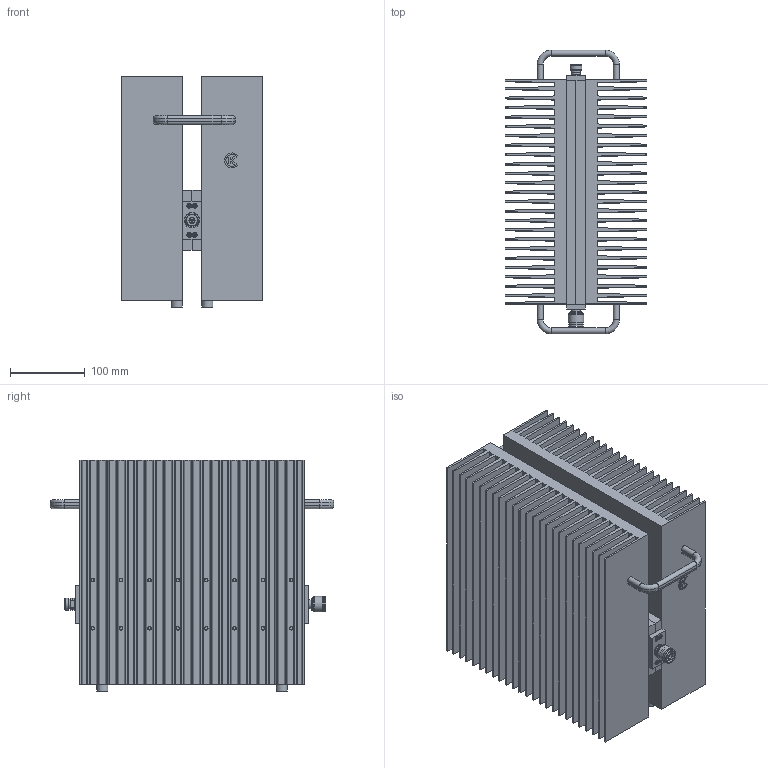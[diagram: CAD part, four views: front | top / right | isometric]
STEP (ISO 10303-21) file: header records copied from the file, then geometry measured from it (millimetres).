
FILE_DESCRIPTION(('STEP AP203'), '1');
FILE_NAME('ÏÐ1-25-1000', '', ('UNSPECIFIED'), ('UNSPECIFIED'), 'C3D Converter', 'C3D Toolkit', '');
FILE_SCHEMA(('CONFIG_CONTROL_DESIGN'));
Length unit declared in the file: millimetre
Products named in the file (16): -01
Assembly tree (53 placements, depth 3):
  (unnamed)
    (unnamed)
    (unnamed)
    (unnamed)  x2
    (unnamed)  x2
    (unnamed)  x2
    (unnamed)
      (unnamed)
      (unnamed)
      (unnamed)  x10
    (unnamed)  x4
    (unnamed)  x16
    (unnamed)  x2
    (unnamed)  x8
    (unnamed)
    -01
Bounding box: 189 x 380 x 310 mm (x, y, z)
Volume: 6916374.2 mm3; surface area: 2553235.4 mm2
Topology: 52 solids, 52 shells, 1195 faces, 2849 edges, 1844 vertices
Faces by surface type: plane 736, cylinder 282, torus 91, cone 86
Full cylindrical faces by diameter (mm): 1.65 x1, 1.66 x1, 3 x16, 3.04 x2, 3.242 x8, 4.917 x26, 5 x14, 5.5 x12, 6 x16, 6.2 x16, 6.5 x50, 7 x2, 8.04 x1, 8.06 x1, 8.5 x18, 9 x1, 10 x16, 11 x26, 11.6 x2, 12.7 x1, 14 x2, 14.94 x1, 15 x4, 15.75 x1, 15.87 x1, 16 x4, 16.5 x1, 17.46 x1, 17.8 x1, 19.8 x3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
Entity records: 25339 total; most frequent: CARTESIAN_POINT 4504, DIRECTION 3134, ORIENTED_EDGE 2818, EDGE_CURVE 1409, AXIS2_PLACEMENT_3D 1133, EDGE_LOOP 1054, VERTEX_POINT 1049, LINE 868
